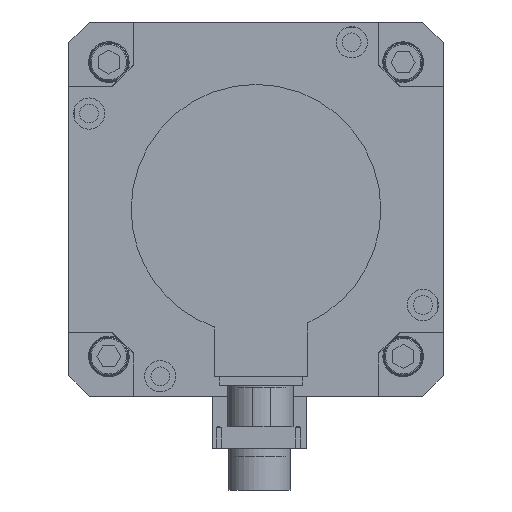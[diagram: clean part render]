
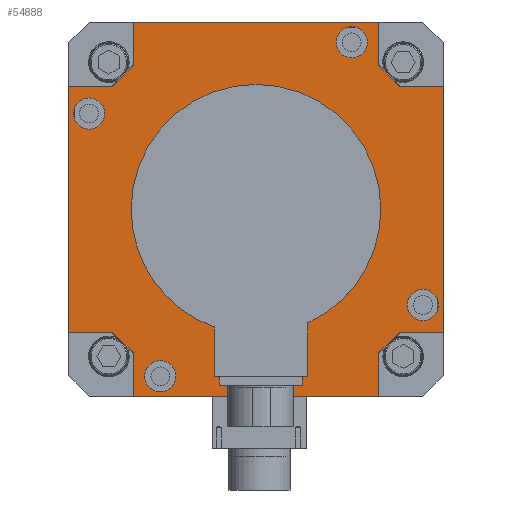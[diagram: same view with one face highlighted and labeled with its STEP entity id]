
A CAD part, front view. The second image highlights one B-rep face of the part: STEP entity #54888.
In plain terms, the highlighted planar face has unit normal (0, -1, 0) as drawn and (0, 0, 1) by its records, which use the part's own axes.
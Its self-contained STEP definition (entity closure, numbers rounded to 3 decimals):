
#54202=DIRECTION('',(-1.,0.,0.));
#54203=VECTOR('',#54202,21.);
#54204=CARTESIAN_POINT('',(21.,31.,0.));
#54205=LINE('',#54204,#54203);
#54206=DIRECTION('',(-0.707,-0.707,0.));
#54207=VECTOR('',#54206,14.142);
#54208=CARTESIAN_POINT('',(31.,159.,0.));
#54209=LINE('',#54208,#54207);
#54210=DIRECTION('',(-0.707,0.707,0.));
#54211=VECTOR('',#54210,14.142);
#54212=CARTESIAN_POINT('',(159.,149.,0.));
#54213=LINE('',#54212,#54211);
#54214=DIRECTION('',(0.,1.,0.));
#54215=VECTOR('',#54214,118.);
#54216=CARTESIAN_POINT('',(180.,31.,0.));
#54217=LINE('',#54216,#54215);
#54218=DIRECTION('',(0.707,0.707,0.));
#54219=VECTOR('',#54218,14.142);
#54220=CARTESIAN_POINT('',(149.,21.,0.));
#54221=LINE('',#54220,#54219);
#54222=DIRECTION('',(1.,0.,0.));
#54223=VECTOR('',#54222,118.);
#54224=CARTESIAN_POINT('',(31.,0.,0.));
#54225=LINE('',#54224,#54223);
#54226=DIRECTION('',(0.707,-0.707,0.));
#54227=VECTOR('',#54226,14.142);
#54228=CARTESIAN_POINT('',(21.,31.,0.));
#54229=LINE('',#54228,#54227);
#54230=DIRECTION('',(0.,-1.,0.));
#54231=VECTOR('',#54230,118.);
#54232=CARTESIAN_POINT('',(0.,149.,0.));
#54233=LINE('',#54232,#54231);
#54234=CARTESIAN_POINT('',(43.987,9.756,0.));
#54235=DIRECTION('',(0.,0.,-1.));
#54236=DIRECTION('',(-1.,0.,0.));
#54237=AXIS2_PLACEMENT_3D('',#54234,#54235,#54236);
#54239=CARTESIAN_POINT('',(43.987,9.756,0.));
#54240=DIRECTION('',(0.,0.,-1.));
#54241=DIRECTION('',(1.,0.,0.));
#54242=AXIS2_PLACEMENT_3D('',#54239,#54240,#54241);
#54244=CARTESIAN_POINT('',(9.756,136.013,0.));
#54245=DIRECTION('',(0.,0.,-1.));
#54246=DIRECTION('',(-1.,0.,0.));
#54247=AXIS2_PLACEMENT_3D('',#54244,#54245,#54246);
#54249=CARTESIAN_POINT('',(9.756,136.013,0.));
#54250=DIRECTION('',(0.,0.,-1.));
#54251=DIRECTION('',(1.,0.,0.));
#54252=AXIS2_PLACEMENT_3D('',#54249,#54250,#54251);
#54254=CARTESIAN_POINT('',(90.,90.,0.));
#54255=DIRECTION('',(0.,0.,-1.));
#54256=DIRECTION('',(1.,0.,0.));
#54257=AXIS2_PLACEMENT_3D('',#54254,#54255,#54256);
#54259=CARTESIAN_POINT('',(90.,90.,0.));
#54260=DIRECTION('',(0.,0.,-1.));
#54261=DIRECTION('',(-1.,0.,0.));
#54262=AXIS2_PLACEMENT_3D('',#54259,#54260,#54261);
#54264=CARTESIAN_POINT('',(136.013,170.244,0.));
#54265=DIRECTION('',(0.,0.,-1.));
#54266=DIRECTION('',(-1.,0.,0.));
#54267=AXIS2_PLACEMENT_3D('',#54264,#54265,#54266);
#54269=CARTESIAN_POINT('',(136.013,170.244,0.));
#54270=DIRECTION('',(0.,0.,-1.));
#54271=DIRECTION('',(1.,0.,0.));
#54272=AXIS2_PLACEMENT_3D('',#54269,#54270,#54271);
#54274=CARTESIAN_POINT('',(170.244,43.987,0.));
#54275=DIRECTION('',(0.,0.,-1.));
#54276=DIRECTION('',(-1.,0.,0.));
#54277=AXIS2_PLACEMENT_3D('',#54274,#54275,#54276);
#54279=CARTESIAN_POINT('',(170.244,43.987,0.));
#54280=DIRECTION('',(0.,0.,-1.));
#54281=DIRECTION('',(1.,0.,0.));
#54282=AXIS2_PLACEMENT_3D('',#54279,#54280,#54281);
#54288=DIRECTION('',(1.,0.,0.));
#54289=VECTOR('',#54288,21.);
#54290=CARTESIAN_POINT('',(0.,149.,0.));
#54291=LINE('',#54290,#54289);
#54312=DIRECTION('',(0.,1.,0.));
#54313=VECTOR('',#54312,21.);
#54314=CARTESIAN_POINT('',(31.,159.,0.));
#54315=LINE('',#54314,#54313);
#54316=DIRECTION('',(1.,0.,0.));
#54317=VECTOR('',#54316,118.);
#54318=CARTESIAN_POINT('',(31.,180.,0.));
#54319=LINE('',#54318,#54317);
#54332=DIRECTION('',(0.,-1.,0.));
#54333=VECTOR('',#54332,21.);
#54334=CARTESIAN_POINT('',(149.,180.,0.));
#54335=LINE('',#54334,#54333);
#54356=DIRECTION('',(1.,0.,0.));
#54357=VECTOR('',#54356,21.);
#54358=CARTESIAN_POINT('',(159.,149.,0.));
#54359=LINE('',#54358,#54357);
#54368=DIRECTION('',(-1.,0.,0.));
#54369=VECTOR('',#54368,21.);
#54370=CARTESIAN_POINT('',(180.,31.,0.));
#54371=LINE('',#54370,#54369);
#54392=DIRECTION('',(0.,-1.,0.));
#54393=VECTOR('',#54392,21.);
#54394=CARTESIAN_POINT('',(149.,21.,0.));
#54395=LINE('',#54394,#54393);
#54404=DIRECTION('',(0.,1.,0.));
#54405=VECTOR('',#54404,21.);
#54406=CARTESIAN_POINT('',(31.,0.,0.));
#54407=LINE('',#54406,#54405);
#54560=CARTESIAN_POINT('',(162.744,43.987,0.));
#54561=CARTESIAN_POINT('',(177.744,43.987,0.));
#54562=VERTEX_POINT('',#54560);
#54563=VERTEX_POINT('',#54561);
#54571=CARTESIAN_POINT('',(159.,149.,0.));
#54573=VERTEX_POINT('',#54571);
#54578=CARTESIAN_POINT('',(159.,31.,0.));
#54580=VERTEX_POINT('',#54578);
#54586=CARTESIAN_POINT('',(128.513,170.244,0.));
#54587=CARTESIAN_POINT('',(143.513,170.244,0.));
#54588=VERTEX_POINT('',#54586);
#54589=VERTEX_POINT('',#54587);
#54590=CARTESIAN_POINT('',(113.,90.,0.));
#54592=VERTEX_POINT('',#54590);
#54594=CARTESIAN_POINT('',(21.,149.,0.));
#54596=VERTEX_POINT('',#54594);
#54598=CARTESIAN_POINT('',(0.,31.,0.));
#54600=VERTEX_POINT('',#54598);
#54620=CARTESIAN_POINT('',(180.,31.,0.));
#54621=CARTESIAN_POINT('',(180.,149.,0.));
#54622=VERTEX_POINT('',#54620);
#54623=VERTEX_POINT('',#54621);
#54629=CARTESIAN_POINT('',(31.,180.,0.));
#54631=VERTEX_POINT('',#54629);
#54640=CARTESIAN_POINT('',(149.,180.,0.));
#54641=VERTEX_POINT('',#54640);
#54642=CARTESIAN_POINT('',(67.,90.,0.));
#54643=VERTEX_POINT('',#54642);
#54662=CARTESIAN_POINT('',(149.,159.,0.));
#54663=VERTEX_POINT('',#54662);
#54665=CARTESIAN_POINT('',(21.,31.,0.));
#54667=VERTEX_POINT('',#54665);
#54668=CARTESIAN_POINT('',(36.487,9.756,0.));
#54669=VERTEX_POINT('',#54668);
#54674=CARTESIAN_POINT('',(17.256,136.013,0.));
#54675=CARTESIAN_POINT('',(2.256,136.013,0.));
#54676=VERTEX_POINT('',#54674);
#54677=VERTEX_POINT('',#54675);
#54678=CARTESIAN_POINT('',(149.,0.,0.));
#54679=VERTEX_POINT('',#54678);
#54680=CARTESIAN_POINT('',(0.,149.,0.));
#54681=VERTEX_POINT('',#54680);
#54682=CARTESIAN_POINT('',(31.,0.,0.));
#54683=CARTESIAN_POINT('',(31.,21.,0.));
#54684=VERTEX_POINT('',#54682);
#54685=VERTEX_POINT('',#54683);
#54686=CARTESIAN_POINT('',(149.,21.,0.));
#54687=VERTEX_POINT('',#54686);
#54690=CARTESIAN_POINT('',(51.487,9.756,0.));
#54691=VERTEX_POINT('',#54690);
#54694=CARTESIAN_POINT('',(31.,159.,0.));
#54695=VERTEX_POINT('',#54694);
#54823=CARTESIAN_POINT('',(0.,0.,0.));
#54824=DIRECTION('',(0.,0.,-1.));
#54825=DIRECTION('',(-1.,0.,0.));
#54826=AXIS2_PLACEMENT_3D('',#54823,#54824,#54825);
#54827=PLANE('',#54826);
#54829=ORIENTED_EDGE('',*,*,#54828,.F.);
#54831=ORIENTED_EDGE('',*,*,#54830,.T.);
#54833=ORIENTED_EDGE('',*,*,#54832,.T.);
#54835=ORIENTED_EDGE('',*,*,#54834,.T.);
#54837=ORIENTED_EDGE('',*,*,#54836,.F.);
#54839=ORIENTED_EDGE('',*,*,#54838,.T.);
#54841=ORIENTED_EDGE('',*,*,#54840,.F.);
#54843=ORIENTED_EDGE('',*,*,#54842,.T.);
#54845=ORIENTED_EDGE('',*,*,#54844,.F.);
#54847=ORIENTED_EDGE('',*,*,#54846,.T.);
#54849=ORIENTED_EDGE('',*,*,#54848,.F.);
#54851=ORIENTED_EDGE('',*,*,#54850,.T.);
#54852=ORIENTED_EDGE('',*,*,#54814,.F.);
#54853=ORIENTED_EDGE('',*,*,#54804,.T.);
#54855=ORIENTED_EDGE('',*,*,#54854,.F.);
#54857=ORIENTED_EDGE('',*,*,#54856,.T.);
#54858=EDGE_LOOP('',(#54829,#54831,#54833,#54835,#54837,#54839,#54841,#54843,
#54845,#54847,#54849,#54851,#54852,#54853,#54855,#54857));
#54859=FACE_OUTER_BOUND('',#54858,.F.);
#54861=ORIENTED_EDGE('',*,*,#54860,.F.);
#54863=ORIENTED_EDGE('',*,*,#54862,.F.);
#54864=EDGE_LOOP('',(#54861,#54863));
#54865=FACE_BOUND('',#54864,.F.);
#54867=ORIENTED_EDGE('',*,*,#54866,.F.);
#54869=ORIENTED_EDGE('',*,*,#54868,.F.);
#54870=EDGE_LOOP('',(#54867,#54869));
#54871=FACE_BOUND('',#54870,.F.);
#54872=ORIENTED_EDGE('',*,*,#54720,.F.);
#54873=ORIENTED_EDGE('',*,*,#54703,.F.);
#54874=EDGE_LOOP('',(#54872,#54873));
#54875=FACE_BOUND('',#54874,.F.);
#54877=ORIENTED_EDGE('',*,*,#54876,.F.);
#54879=ORIENTED_EDGE('',*,*,#54878,.F.);
#54880=EDGE_LOOP('',(#54877,#54879));
#54881=FACE_BOUND('',#54880,.F.);
#54883=ORIENTED_EDGE('',*,*,#54882,.F.);
#54885=ORIENTED_EDGE('',*,*,#54884,.F.);
#54886=EDGE_LOOP('',(#54883,#54885));
#54887=FACE_BOUND('',#54886,.F.);
#54888=ADVANCED_FACE('',(#54859,#54865,#54871,#54875,#54881,#54887),#54827,.F.);
#54238=CIRCLE('',#54237,7.5);
#54243=CIRCLE('',#54242,7.5);
#54248=CIRCLE('',#54247,7.5);
#54253=CIRCLE('',#54252,7.5);
#54258=CIRCLE('',#54257,23.);
#54263=CIRCLE('',#54262,23.);
#54268=CIRCLE('',#54267,7.5);
#54273=CIRCLE('',#54272,7.5);
#54278=CIRCLE('',#54277,7.5);
#54283=CIRCLE('',#54282,7.5);
#54703=EDGE_CURVE('',#54643,#54592,#54263,.T.);
#54720=EDGE_CURVE('',#54592,#54643,#54258,.T.);
#54804=EDGE_CURVE('',#54667,#54600,#54205,.T.);
#54814=EDGE_CURVE('',#54667,#54685,#54229,.T.);
#54828=EDGE_CURVE('',#54695,#54596,#54209,.T.);
#54830=EDGE_CURVE('',#54695,#54631,#54315,.T.);
#54832=EDGE_CURVE('',#54631,#54641,#54319,.T.);
#54834=EDGE_CURVE('',#54641,#54663,#54335,.T.);
#54836=EDGE_CURVE('',#54573,#54663,#54213,.T.);
#54838=EDGE_CURVE('',#54573,#54623,#54359,.T.);
#54840=EDGE_CURVE('',#54622,#54623,#54217,.T.);
#54842=EDGE_CURVE('',#54622,#54580,#54371,.T.);
#54844=EDGE_CURVE('',#54687,#54580,#54221,.T.);
#54846=EDGE_CURVE('',#54687,#54679,#54395,.T.);
#54848=EDGE_CURVE('',#54684,#54679,#54225,.T.);
#54850=EDGE_CURVE('',#54684,#54685,#54407,.T.);
#54854=EDGE_CURVE('',#54681,#54600,#54233,.T.);
#54856=EDGE_CURVE('',#54681,#54596,#54291,.T.);
#54860=EDGE_CURVE('',#54669,#54691,#54238,.T.);
#54862=EDGE_CURVE('',#54691,#54669,#54243,.T.);
#54866=EDGE_CURVE('',#54677,#54676,#54248,.T.);
#54868=EDGE_CURVE('',#54676,#54677,#54253,.T.);
#54876=EDGE_CURVE('',#54588,#54589,#54268,.T.);
#54878=EDGE_CURVE('',#54589,#54588,#54273,.T.);
#54882=EDGE_CURVE('',#54562,#54563,#54278,.T.);
#54884=EDGE_CURVE('',#54563,#54562,#54283,.T.);
